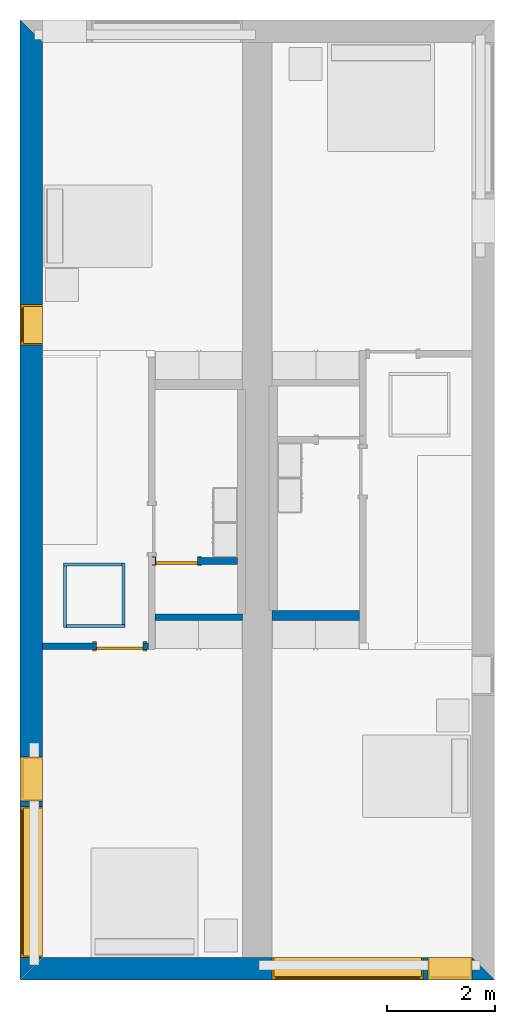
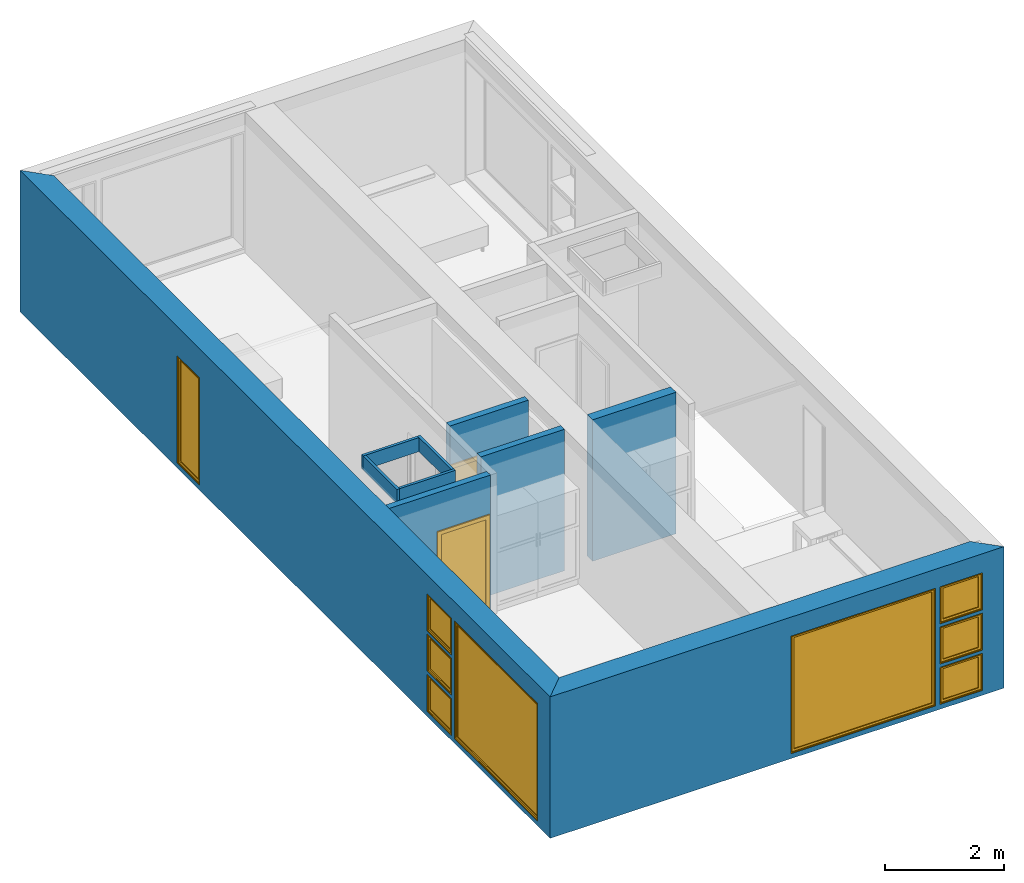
# One storey, part 2 of 16: 10 walls, 9 windows, 2 doors, 11 openings.
"""IFC4 building model written with IfcOpenShell, lengths in metres."""

from ifc_helpers import new_model, entity, si_unit, converted_unit, frame, frame_2d, origin, origin_2d_with_axis, place, context, project, spatial, polyline, rectangle, outline, extrude, source, transform, mapped, material, layer, layer_set, layer_usage, type_object, type_shapes, element, fill, save


model = new_model("IFC4")

# Units and contexts
model_context = context("Model", 3, precision=1e-09, world=origin())
plan_context = context("Plan", 3, precision=1e-09, world=origin())
ifc_project = project(units=[si_unit("LENGTHUNIT", "METRE"), si_unit("AREAUNIT", "SQUARE_METRE"), si_unit("VOLUMEUNIT", "CUBIC_METRE"), converted_unit("PLANEANGLEUNIT", "DEGREE", entity("IfcRatioMeasure", 0.01745329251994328), si_unit("PLANEANGLEUNIT", "RADIAN"), dimensions=[0, 0, 0, 0, 0, 0, 0]), si_unit("TIMEUNIT", "SECOND")], contexts=[model_context, plan_context])

# Site, building, storey
site_placement = place(None, origin())
site = spatial("IfcSite", under=ifc_project, at=site_placement, Name="Default", CompositionType="ELEMENT")
building_placement = place(site_placement, origin())
building = spatial("IfcBuilding", under=site, at=building_placement, CompositionType="ELEMENT")
storey_placement = place(building_placement, frame((0.0, 0.0, 3.100000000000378)))
storey = spatial("IfcBuildingStorey", under=building, at=storey_placement, Name="Level 2", CompositionType="ELEMENT", Elevation=3.100000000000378)

# Wall, openings, windows
ifc_material_1 = material(Name="Masonry - Brick")
ifc_layer_1 = layer(ifc_material_1, 0.092)
ifc_material_2 = material(Name="Misc. Air Layers - Air Space")
ifc_layer_2 = layer(ifc_material_2, 0.025)
ifc_material_3 = material(Name="Insulation / Thermal Barriers - Rigid insulation")
ifc_layer_3 = layer(ifc_material_3, 0.05)
ifc_material_4 = material(Name="Masonry - Concrete Block")
ifc_layer_4 = layer(ifc_material_4, 0.193)
ifc_material_5 = material(Name="Metal - Stud Layer")
ifc_layer_5 = layer(ifc_material_5, 0.041)
ifc_material_6 = material(Name="Plasterboard")
ifc_layer_6 = layer(ifc_material_6, 0.016)
ifc_layer_set_1 = layer_set([ifc_layer_1, ifc_layer_2, ifc_layer_3, ifc_layer_4, ifc_layer_5, ifc_layer_6], Name="Basic Wall:Exterior - Brick on Block")
ifc_layer_usage_1 = layer_usage(ifc_layer_set_1, "AXIS2", "NEGATIVE", 0.2085000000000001)
wall_1_placement = place(storey_placement, frame((8.799999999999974, -17.5915, 0.0), z_axis=(0.0, 0.0, 1.0), x_axis=(-1.0, 0.0, 0.0)))
wall_1 = element("IfcWall", 1, at=wall_1_placement, inside=storey, material=ifc_layer_usage_1, Name="Basic Wall:Exterior - Brick on Block", ObjectType="Basic Wall:Exterior - Brick on Block", PredefinedType="SOLIDWALL", context=model_context, shape_type="SweptSolid", body=[
    extrude(outline(polyline([(8.382999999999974, -0.2084999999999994), (8.799999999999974, 0.2085000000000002), (0.0, 0.2085000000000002), (0.4170000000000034, -0.2085000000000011), (4.125000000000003, -0.2085000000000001), (4.675000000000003, -0.2085000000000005), (8.382999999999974, -0.2084999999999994)])), origin(), (0.0, 0.0, 1.0), 2.900000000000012),
])
opening_1_placement = place(wall_1_placement, frame((0.4170000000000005, -0.2084999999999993, 1.750999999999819)))
opening_1 = element("IfcOpeningElement", 2, at=opening_1_placement, cuts=wall_1, Name="M_Fixed:819mm x 759mm:819mm x 759mm:1", ObjectType="Opening", context=model_context, shape_type="SweptSolid", body=[
    extrude(rectangle(XDim=0.7589999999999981, YDim=0.8189999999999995, at=frame_2d((0.379499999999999, 0.4095000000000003), x_axis=(1.0, 0.0))), frame((0.0, 0.0, 0.0), z_axis=(0.0, 1.0, 0.0), x_axis=(0.0, 0.0, 1.0)), (0.0, 0.0, 1.0), 0.4170000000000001),
])
opening_2_placement = place(wall_1_placement, frame((0.4170000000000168, -0.2084999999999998, 0.9254999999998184)))
opening_2 = element("IfcOpeningElement", 3, at=opening_2_placement, cuts=wall_1, Name="M_Casement:819mm x 759mm:819mm x 759mm:1", ObjectType="Opening", context=model_context, shape_type="SweptSolid", body=[
    extrude(rectangle(XDim=0.7590000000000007, YDim=0.8189999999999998, at=frame_2d((0.3795000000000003, 0.4094999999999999), x_axis=(-1.0, 0.0))), frame((0.0, 0.0, 0.0), z_axis=(0.0, 1.0, 0.0), x_axis=(0.0, 0.0, 1.0)), (0.0, 0.0, 1.0), 0.4170000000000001),
])
opening_3_placement = place(wall_1_placement, frame((1.325000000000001, -0.2084999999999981, 0.09999999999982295)))
opening_3 = element("IfcOpeningElement", 4, at=opening_3_placement, cuts=wall_1, Name="M_Fixed:2800mm x 2410mm:2800mm x 2410mm:1", ObjectType="Opening", context=model_context, shape_type="SweptSolid", body=[
    extrude(rectangle(XDim=2.409999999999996, YDim=2.8, at=frame_2d((1.204999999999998, 1.4), x_axis=(1.0, 0.0))), frame((0.0, 0.0, 0.0), z_axis=(0.0, 1.0, 0.0), x_axis=(0.0, 0.0, 1.0)), (0.0, 0.0, 1.0), 0.4170000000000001),
])
opening_4_placement = place(wall_1_placement, frame((0.4170000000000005, -0.2084999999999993, 0.0999999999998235)))
opening_4 = element("IfcOpeningElement", 5, at=opening_4_placement, cuts=wall_1, Name="M_Fixed:819mm x 759mm:819mm x 759mm:1", ObjectType="Opening", context=model_context, shape_type="SweptSolid", body=[
    extrude(rectangle(XDim=0.7589999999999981, YDim=0.8189999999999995, at=frame_2d((0.379499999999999, 0.4095000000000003), x_axis=(1.0, 0.0))), frame((0.0, 0.0, 0.0), z_axis=(0.0, 1.0, 0.0), x_axis=(0.0, 0.0, 1.0)), (0.0, 0.0, 1.0), 0.4170000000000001),
])
window_type_1 = type_object("IfcWindowType", Name="2800mm x 2410mm", ParameterTakesPrecedence=False, PartitioningType="NOTDEFINED", PredefinedType="WINDOW")
shared_shape_1 = source(origin(), model_context, "Body", "SweptSolid", [
    extrude(rectangle(XDim=0.01199999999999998, YDim=2.673999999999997, at=origin_2d_with_axis()), frame((1.400000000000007, 0.3759999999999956, 0.06299999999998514), z_axis=(0.0, 0.0, 1.0), x_axis=(0.0, -1.0, 0.0)), (0.0, 0.0, 1.0), 2.284000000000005),
    extrude(outline(polyline([(-1.381, -1.186000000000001), (1.381, -1.186000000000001), (1.381, 1.186000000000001), (-1.381, 1.186000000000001), (-1.381, -1.186000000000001)]), holes=[polyline([(-1.336999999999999, -1.142000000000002), (-1.336999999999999, 1.142000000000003), (1.336999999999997, 1.142000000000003), (1.336999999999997, -1.142000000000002), (-1.336999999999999, -1.142000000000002)])]), frame((1.400000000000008, 0.3539999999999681, 1.204999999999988), z_axis=(0.0, 1.0, 0.0), x_axis=(1.0, 0.0, 0.0)), (0.0, 0.0, 1.0), 0.04400000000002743),
    extrude(outline(polyline([(-1.4, -1.204999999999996), (1.4, -1.204999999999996), (1.4, 1.204999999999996), (-1.4, 1.204999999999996), (-1.4, -1.204999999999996)]), holes=[polyline([(-1.381000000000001, -1.185999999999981), (-1.381000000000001, 1.186000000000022), (1.380999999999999, 1.186000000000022), (1.380999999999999, -1.185999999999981), (-1.381000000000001, -1.185999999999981)])]), frame((1.400000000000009, 0.3539999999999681, 1.205000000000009), z_axis=(0.0, 1.0, 0.0), x_axis=(1.0, 0.0, 0.0)), (0.0, 0.0, 1.0), 0.06300000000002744),
    extrude(outline(polyline([(-1.4, -1.204999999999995), (1.4, -1.204999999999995), (1.4, 1.204999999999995), (-1.4, 1.204999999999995), (-1.4, -1.204999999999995)]), holes=[polyline([(-1.368, -1.172999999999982), (-1.368, 1.17300000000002), (1.368, 1.17300000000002), (1.367999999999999, -1.172999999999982), (-1.368, -1.172999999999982)])]), frame((1.40000000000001, 0.0, 1.205000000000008), z_axis=(0.0, 1.0, 0.0), x_axis=(1.0, 0.0, 0.0)), (0.0, 0.0, 1.0), 0.3539999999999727),
])
type_shapes(window_type_1, [shared_shape_1])
window_1_placement = place(opening_3_placement, origin())
window_1 = element("IfcWindow", 6, at=window_1_placement, inside=storey, type_object=window_type_1, Name="M_Fixed:2800mm x 2410mm:2800mm x 2410mm", ObjectType="2800mm x 2410mm", OverallHeight=2.409999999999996, OverallWidth=2.8, context=model_context, shape_type="MappedRepresentation", body=[
    mapped(shared_shape_1, transform((0.0, 0.0, 0.0), scale=1.0)),
])
fill(opening_3, window_1)
window_type_2 = type_object("IfcWindowType", Name="819mm x 759mm", ParameterTakesPrecedence=False, PartitioningType="NOTDEFINED", PredefinedType="WINDOW")
shared_shape_2 = source(origin(), model_context, "Body", "SweptSolid", [
    extrude(rectangle(XDim=0.01199999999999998, YDim=0.6929999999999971, at=origin_2d_with_axis()), frame((0.4095000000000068, 0.3759999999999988, 0.06299999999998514), z_axis=(0.0, 0.0, 1.0), x_axis=(0.0, -1.0, 0.0)), (0.0, 0.0, 1.0), 0.6330000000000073),
    extrude(outline(polyline([(-0.3904999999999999, -0.3605000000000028), (0.3904999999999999, -0.3605000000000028), (0.3904999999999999, 0.3605000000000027), (-0.3904999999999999, 0.3605000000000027), (-0.3904999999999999, -0.3605000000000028)]), holes=[polyline([(-0.3464999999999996, -0.3165000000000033), (-0.3464999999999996, 0.316500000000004), (0.3464999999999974, 0.316500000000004), (0.3464999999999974, -0.3165000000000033), (-0.3464999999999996, -0.3165000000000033)])]), frame((0.4095000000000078, 0.3539999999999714, 0.3794999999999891), z_axis=(0.0, 1.0, 0.0), x_axis=(1.0, 0.0, 0.0)), (0.0, 0.0, 1.0), 0.04400000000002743),
    extrude(outline(polyline([(-0.4094999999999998, -0.3794999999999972), (0.4094999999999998, -0.3794999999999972), (0.4094999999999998, 0.3794999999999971), (-0.4094999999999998, 0.3794999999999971), (-0.4094999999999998, -0.3794999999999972)]), holes=[polyline([(-0.3905000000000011, -0.3604999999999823), (-0.3905000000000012, 0.3605000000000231), (0.3904999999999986, 0.3605000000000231), (0.3904999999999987, -0.3604999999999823), (-0.3905000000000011, -0.3604999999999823)])]), frame((0.4095000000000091, 0.3539999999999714, 0.3795000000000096), z_axis=(0.0, 1.0, 0.0), x_axis=(1.0, 0.0, 0.0)), (0.0, 0.0, 1.0), 0.06300000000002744),
    extrude(outline(polyline([(-0.4095000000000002, -0.3794999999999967), (0.4095000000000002, -0.3794999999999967), (0.4095000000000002, 0.3794999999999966), (-0.4095000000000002, 0.3794999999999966), (-0.4095000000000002, -0.3794999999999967)]), holes=[polyline([(-0.3774999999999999, -0.3474999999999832), (-0.3774999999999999, 0.3475000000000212), (0.3775000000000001, 0.3475000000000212), (0.3775000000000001, -0.3474999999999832), (-0.3774999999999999, -0.3474999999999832)])]), frame((0.4095000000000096, 0.0, 0.379500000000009), z_axis=(0.0, 1.0, 0.0), x_axis=(1.0, 0.0, 0.0)), (0.0, 0.0, 1.0), 0.3539999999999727),
])
type_shapes(window_type_2, [shared_shape_2])
window_2_placement = place(opening_4_placement, origin())
window_2 = element("IfcWindow", 7, at=window_2_placement, inside=storey, type_object=window_type_2, Name="M_Fixed:819mm x 759mm:819mm x 759mm", ObjectType="819mm x 759mm", OverallHeight=0.758999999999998, OverallWidth=0.8190000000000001, context=model_context, shape_type="MappedRepresentation", body=[
    mapped(shared_shape_2, transform((0.0, 0.0, 0.0), scale=1.0)),
])
fill(opening_4, window_2)
window_3_placement = place(opening_1_placement, origin())
window_3 = element("IfcWindow", 8, at=window_3_placement, inside=storey, type_object=window_type_2, Name="M_Fixed:819mm x 759mm:819mm x 759mm", ObjectType="819mm x 759mm", OverallHeight=0.758999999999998, OverallWidth=0.8190000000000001, context=model_context, shape_type="MappedRepresentation", body=[
    mapped(shared_shape_2, transform((0.0, 0.0, 0.0), scale=1.0)),
])
fill(opening_1, window_3)
window_type_3 = type_object("IfcWindowType", Name="819mm x 759mm", ParameterTakesPrecedence=False, PartitioningType="NOTDEFINED", PredefinedType="WINDOW")
shared_shape_3 = source(origin(), model_context, "Body", "SweptSolid", [
    extrude(rectangle(XDim=0.01269999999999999, YDim=0.6919999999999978, at=origin_2d_with_axis()), frame((0.4095000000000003, 0.3757750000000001, 0.06350000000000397), z_axis=(0.0, 0.0, 1.0), x_axis=(0.0, 1.0, 0.0)), (0.0, 0.0, 1.0), 0.6320000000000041),
    extrude(outline(polyline([(-0.3904499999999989, -0.3604500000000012), (0.3904499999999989, -0.3604500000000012), (0.3904499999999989, 0.3604500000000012), (-0.3904499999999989, 0.3604500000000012), (-0.3904499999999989, -0.3604500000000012)]), holes=[polyline([(-0.3459999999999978, -0.3160000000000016), (-0.3459999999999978, 0.3160000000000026), (0.346, 0.3160000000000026), (0.346, -0.3160000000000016), (-0.3459999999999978, -0.3160000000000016)])]), frame((0.4094999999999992, 0.3535500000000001, 0.3795000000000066), z_axis=(0.0, 1.0, 0.0), x_axis=(1.0, 0.0, 0.0)), (0.0, 0.0, 1.0), 0.04445),
    extrude(outline(polyline([(-0.4094999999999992, -0.3795000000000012), (0.4094999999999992, -0.3795000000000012), (0.4094999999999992, 0.3795000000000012), (-0.4094999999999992, 0.3795000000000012), (-0.4094999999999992, -0.3795000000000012)]), holes=[polyline([(-0.3777500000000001, -0.3477499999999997), (-0.3777500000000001, 0.3477500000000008), (0.3777499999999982, 0.3477500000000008), (0.3777499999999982, -0.3477499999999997), (-0.3777500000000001, -0.3477499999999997)])]), frame((0.4095000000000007, 0.0, 0.3795000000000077), z_axis=(0.0, 1.0, 0.0), x_axis=(1.0, 0.0, 0.0)), (0.0, 0.0, 1.0), 0.3535500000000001),
    extrude(outline(polyline([(-0.3795000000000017, -0.4094999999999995), (0.3795000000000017, -0.4094999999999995), (0.3795000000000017, 0.4094999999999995), (-0.3795000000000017, 0.4094999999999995), (-0.3795000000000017, -0.4094999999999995)]), holes=[polyline([(-0.3604500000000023, -0.3904499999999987), (-0.3604500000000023, 0.3904499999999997), (0.3604500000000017, 0.3904499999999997), (0.3604500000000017, -0.3904499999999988), (-0.3604500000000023, -0.3904499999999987)])]), frame((0.4095000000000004, 0.3535500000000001, 0.3795000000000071), z_axis=(0.0, 1.0, 0.0), x_axis=(0.0, 0.0, -1.0)), (0.0, 0.0, 1.0), 0.06345),
])
type_shapes(window_type_3, [shared_shape_3])
window_4_placement = place(opening_2_placement, origin())
window_4 = element("IfcWindow", 9, at=window_4_placement, inside=storey, type_object=window_type_3, Name="M_Casement:819mm x 759mm:819mm x 759mm", ObjectType="819mm x 759mm", OverallHeight=0.7590000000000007, OverallWidth=0.8190000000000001, context=model_context, shape_type="MappedRepresentation", body=[
    mapped(shared_shape_3, transform((0.0, 0.0, 0.0), scale=1.0)),
])
fill(opening_2, window_4)

ifc_layer_usage_2 = layer_usage(ifc_layer_set_1, "AXIS2", "NEGATIVE", 0.2085000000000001)
wall_2_placement = place(storey_placement, frame((0.208499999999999, -17.79999999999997, 0.0), z_axis=(0.0, 0.0, 1.0), x_axis=(0.0, 1.0, 0.0)))
wall_2 = element("IfcWall", 10, at=wall_2_placement, inside=storey, material=ifc_layer_usage_2, Name="Basic Wall:Exterior - Brick on Block", ObjectType="Basic Wall:Exterior - Brick on Block", PredefinedType="SOLIDWALL", context=model_context, shape_type="SweptSolid", body=[
    extrude(outline(polyline([(17.38299999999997, -0.2085000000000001), (17.79999999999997, 0.2085000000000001), (0.0, 0.2085000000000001), (0.4170000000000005, -0.2085), (6.125999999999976, -0.2085), (6.249999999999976, -0.2085000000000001), (17.38299999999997, -0.2085000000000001)])), origin(), (0.0, 0.0, 1.0), 2.900000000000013),
])
opening_5_placement = place(wall_2_placement, frame((11.77399999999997, -0.2084999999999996, 0.09999999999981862)))
opening_5 = element("IfcOpeningElement", 11, at=opening_5_placement, cuts=wall_2, Name="M_Fixed:750mm x 2200mm:750mm x 2200mm:1", ObjectType="Opening", context=model_context, shape_type="SweptSolid", body=[
    extrude(rectangle(XDim=2.199999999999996, YDim=0.7499999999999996, at=frame_2d((1.099999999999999, 0.3749999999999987), x_axis=(1.0, 0.0))), frame((0.0, 0.0, 0.0), z_axis=(0.0, 1.0, 0.0), x_axis=(0.0, 0.0, 1.0)), (0.0, 0.0, 1.0), 0.4170000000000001),
])
opening_6_placement = place(wall_2_placement, frame((3.317000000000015, -0.2085000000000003, 0.9254999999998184)))
opening_6 = element("IfcOpeningElement", 12, at=opening_6_placement, cuts=wall_2, Name="M_Casement:819mm x 759mm:819mm x 759mm:1", ObjectType="Opening", context=model_context, shape_type="SweptSolid", body=[
    extrude(rectangle(XDim=0.7590000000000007, YDim=0.8189999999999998, at=frame_2d((0.3795000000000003, 0.4094999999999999), x_axis=(-1.0, 0.0))), frame((0.0, 0.0, 0.0), z_axis=(0.0, 1.0, 0.0), x_axis=(0.0, 0.0, 1.0)), (0.0, 0.0, 1.0), 0.4170000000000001),
])
opening_7_placement = place(wall_2_placement, frame((3.317, -0.208499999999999, 0.09999999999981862)))
opening_7 = element("IfcOpeningElement", 13, at=opening_7_placement, cuts=wall_2, Name="M_Fixed:819mm x 759mm:819mm x 759mm:1", ObjectType="Opening", context=model_context, shape_type="SweptSolid", body=[
    extrude(rectangle(XDim=0.7589999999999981, YDim=0.8189999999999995, at=frame_2d((0.3794999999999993, 0.4095000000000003), x_axis=(1.0, 0.0))), frame((0.0, 0.0, 0.0), z_axis=(0.0, 1.0, 0.0), x_axis=(0.0, 0.0, 1.0)), (0.0, 0.0, 1.0), 0.4170000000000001),
])
opening_8_placement = place(wall_2_placement, frame((3.317, -0.208499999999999, 1.750999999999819)))
opening_8 = element("IfcOpeningElement", 14, at=opening_8_placement, cuts=wall_2, Name="M_Fixed:819mm x 759mm:819mm x 759mm:1", ObjectType="Opening", context=model_context, shape_type="SweptSolid", body=[
    extrude(rectangle(XDim=0.7589999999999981, YDim=0.8189999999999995, at=frame_2d((0.379499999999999, 0.4095000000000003), x_axis=(1.0, 0.0))), frame((0.0, 0.0, 0.0), z_axis=(0.0, 1.0, 0.0), x_axis=(0.0, 0.0, 1.0)), (0.0, 0.0, 1.0), 0.4170000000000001),
])
opening_9_placement = place(wall_2_placement, frame((0.4169999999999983, -0.2084999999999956, 0.09999999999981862)))
opening_9 = element("IfcOpeningElement", 15, at=opening_9_placement, cuts=wall_2, Name="M_Fixed:2800mm x 2410mm:2800mm x 2410mm:1", ObjectType="Opening", context=model_context, shape_type="SweptSolid", body=[
    extrude(rectangle(XDim=2.409999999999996, YDim=2.8, at=frame_2d((1.204999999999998, 1.4), x_axis=(1.0, 0.0))), frame((0.0, 0.0, 0.0), z_axis=(0.0, 1.0, 0.0), x_axis=(0.0, 0.0, 1.0)), (0.0, 0.0, 1.0), 0.4170000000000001),
])
window_type_4 = type_object("IfcWindowType", Name="750mm x 2200mm", ParameterTakesPrecedence=False, PartitioningType="NOTDEFINED", PredefinedType="WINDOW")
shared_shape_4 = source(origin(), model_context, "Body", "SweptSolid", [
    extrude(rectangle(XDim=0.01199999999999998, YDim=0.623999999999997, at=origin_2d_with_axis()), frame((0.375000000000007, 0.3759999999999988, 0.06299999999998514), z_axis=(0.0, 0.0, 1.0), x_axis=(0.0, -1.0, 0.0)), (0.0, 0.0, 1.0), 2.074000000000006),
    extrude(outline(polyline([(-0.3559999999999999, -1.081000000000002), (0.3559999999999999, -1.081000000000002), (0.3559999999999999, 1.081000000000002), (-0.3559999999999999, 1.081000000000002), (-0.3559999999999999, -1.081000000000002)]), holes=[polyline([(-0.3119999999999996, -1.037000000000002), (-0.3119999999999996, 1.037000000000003), (0.3119999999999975, 1.037000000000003), (0.3119999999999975, -1.037000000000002), (-0.3119999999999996, -1.037000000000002)])]), frame((0.3750000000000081, 0.3539999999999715, 1.099999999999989), z_axis=(0.0, 1.0, 0.0), x_axis=(1.0, 0.0, 0.0)), (0.0, 0.0, 1.0), 0.04400000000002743),
    extrude(outline(polyline([(-0.3749999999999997, -1.099999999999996), (0.3749999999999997, -1.099999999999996), (0.3749999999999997, 1.099999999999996), (-0.3749999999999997, 1.099999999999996), (-0.3749999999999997, -1.099999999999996)]), holes=[polyline([(-0.3560000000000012, -1.080999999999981), (-0.3560000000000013, 1.081000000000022), (0.3559999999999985, 1.081000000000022), (0.3559999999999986, -1.080999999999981), (-0.3560000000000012, -1.080999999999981)])]), frame((0.3750000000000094, 0.3539999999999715, 1.100000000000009), z_axis=(0.0, 1.0, 0.0), x_axis=(1.0, 0.0, 0.0)), (0.0, 0.0, 1.0), 0.06300000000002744),
    extrude(outline(polyline([(-0.3750000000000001, -1.099999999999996), (0.3750000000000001, -1.099999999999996), (0.3750000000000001, 1.099999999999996), (-0.3750000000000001, 1.099999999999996), (-0.3750000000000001, -1.099999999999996)]), holes=[polyline([(-0.3429999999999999, -1.067999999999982), (-0.3429999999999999, 1.06800000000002), (0.3430000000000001, 1.06800000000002), (0.3430000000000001, -1.067999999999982), (-0.3429999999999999, -1.067999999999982)])]), frame((0.3750000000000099, 0.0, 1.100000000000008), z_axis=(0.0, 1.0, 0.0), x_axis=(1.0, 0.0, 0.0)), (0.0, 0.0, 1.0), 0.3539999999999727),
])
type_shapes(window_type_4, [shared_shape_4])
window_5_placement = place(opening_5_placement, origin())
window_5 = element("IfcWindow", 16, at=window_5_placement, inside=storey, type_object=window_type_4, Name="M_Fixed:750mm x 2200mm:750mm x 2200mm", ObjectType="750mm x 2200mm", OverallHeight=2.199999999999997, OverallWidth=0.7499999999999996, context=model_context, shape_type="MappedRepresentation", body=[
    mapped(shared_shape_4, transform((0.0, 0.0, 0.0), scale=1.0)),
])
fill(opening_5, window_5)
window_6_placement = place(opening_9_placement, origin())
window_6 = element("IfcWindow", 17, at=window_6_placement, inside=storey, type_object=window_type_1, Name="M_Fixed:2800mm x 2410mm:2800mm x 2410mm", ObjectType="2800mm x 2410mm", OverallHeight=2.409999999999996, OverallWidth=2.8, context=model_context, shape_type="MappedRepresentation", body=[
    mapped(shared_shape_1, transform((0.0, 0.0, 0.0), scale=1.0)),
])
fill(opening_9, window_6)
window_7_placement = place(opening_7_placement, origin())
window_7 = element("IfcWindow", 18, at=window_7_placement, inside=storey, type_object=window_type_2, Name="M_Fixed:819mm x 759mm:819mm x 759mm", ObjectType="819mm x 759mm", OverallHeight=0.7589999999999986, OverallWidth=0.8190000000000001, context=model_context, shape_type="MappedRepresentation", body=[
    mapped(shared_shape_2, transform((0.0, 0.0, 0.0), scale=1.0)),
])
fill(opening_7, window_7)
window_8_placement = place(opening_8_placement, origin())
window_8 = element("IfcWindow", 19, at=window_8_placement, inside=storey, type_object=window_type_2, Name="M_Fixed:819mm x 759mm:819mm x 759mm", ObjectType="819mm x 759mm", OverallHeight=0.758999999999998, OverallWidth=0.8190000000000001, context=model_context, shape_type="MappedRepresentation", body=[
    mapped(shared_shape_2, transform((0.0, 0.0, 0.0), scale=1.0)),
])
fill(opening_8, window_8)
window_9_placement = place(opening_6_placement, origin())
window_9 = element("IfcWindow", 20, at=window_9_placement, inside=storey, type_object=window_type_3, Name="M_Casement:819mm x 759mm:819mm x 759mm", ObjectType="819mm x 759mm", OverallHeight=0.7590000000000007, OverallWidth=0.8190000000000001, context=model_context, shape_type="MappedRepresentation", body=[
    mapped(shared_shape_3, transform((0.0, 0.0, 0.0), scale=1.0)),
])
fill(opening_6, window_9)

# Wall, opening, door
ifc_layer_7 = layer(ifc_material_6, 0.016)
ifc_layer_8 = layer(ifc_material_5, 0.092)
ifc_layer_9 = layer(ifc_material_6, 0.016)
ifc_layer_set_2 = layer_set([ifc_layer_7, ifc_layer_8, ifc_layer_9], Name="Basic Wall:Interior - Partition (92mm Stud)")
ifc_layer_usage_3 = layer_usage(ifc_layer_set_2, "AXIS2", "NEGATIVE", 0.062)
wall_3_placement = place(storey_placement, frame((2.381999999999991, -11.612, 0.0), z_axis=(0.0, 0.0, 1.0), x_axis=(-1.0, 0.0, 0.0)))
wall_3 = element("IfcWall", 21, at=wall_3_placement, inside=storey, material=ifc_layer_usage_3, Name="Basic Wall:Interior - Partition (92mm Stud)", ObjectType="Basic Wall:Interior - Partition (92mm Stud)", PredefinedType="SOLIDWALL", context=model_context, shape_type="SweptSolid", body=[
    extrude(rectangle(XDim=1.964999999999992, YDim=0.1240000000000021, at=frame_2d((0.9824999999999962, 0.0), x_axis=(-1.0, 0.0))), origin(), (0.0, 0.0, 1.0), 2.900000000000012),
])
opening_10_placement = place(wall_3_placement, frame((0.09999999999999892, -0.0620000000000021, 0.0)))
opening_10 = element("IfcOpeningElement", 22, at=opening_10_placement, cuts=wall_3, Name="M_Single-Flush:0864 x 2032mm:0864 x 2032mm:1", ObjectType="Opening", context=model_context, shape_type="SweptSolid", body=[
    extrude(rectangle(XDim=0.8639999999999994, YDim=2.032, at=frame_2d((1.016, 0.4319999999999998), x_axis=(0.0, -1.0))), frame((0.0, 0.0, 0.0), z_axis=(0.0, 1.0, 0.0), x_axis=(0.0, 0.0, 1.0)), (0.0, 0.0, 1.0), 0.124),
])
door_type_1 = type_object("IfcDoorType", Name="0864 x 2032mm", OperationType="SINGLE_SWING_LEFT", ParameterTakesPrecedence=False, PredefinedType="DOOR")
shared_shape_5 = source(origin(), model_context, "Body", "SweptSolid", [
    extrude(outline(polyline([(-0.5079999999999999, -1.072999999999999), (0.5079999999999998, -1.072999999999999), (0.5079999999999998, 1.035000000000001), (0.4319999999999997, 1.035000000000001), (0.4319999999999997, -0.9970000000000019), (-0.4319999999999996, -0.9970000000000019), (-0.4319999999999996, 1.035000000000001), (-0.5079999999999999, 1.035000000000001), (-0.5079999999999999, -1.072999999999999)])), frame((0.4320000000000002, 0.1489999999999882, 1.035000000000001), z_axis=(0.0, -1.0, 0.0), x_axis=(-1.0, 0.0, 0.0)), (0.0, 0.0, 1.0), 0.02499999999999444),
    extrude(outline(polyline([(-1.073, -0.5079999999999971), (1.035, -0.5079999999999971), (1.035, -0.4320000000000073), (-0.9969999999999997, -0.4320000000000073), (-0.9969999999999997, 0.4320000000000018), (1.035, 0.4320000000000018), (1.035, 0.5080000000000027), (-1.073, 0.5080000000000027), (-1.073, -0.5079999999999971)])), frame((0.4319999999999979, 0.0, 1.035), z_axis=(0.0, -1.0, 0.0), x_axis=(0.0, 0.0, -1.0)), (0.0, 0.0, 1.0), 0.02500000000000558),
    extrude(rectangle(XDim=0.8639999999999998, YDim=0.051, at=origin_2d_with_axis()), frame((0.4320000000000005, 0.09849999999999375, 0.0)), (0.0, 0.0, 1.0), 2.032),
])
type_shapes(door_type_1, [shared_shape_5])
door_1_placement = place(opening_10_placement, origin())
door_1 = element("IfcDoor", 23, at=door_1_placement, inside=storey, type_object=door_type_1, Name="M_Single-Flush:0864 x 2032mm:0864 x 2032mm", ObjectType="0864 x 2032mm", OverallHeight=2.032, OverallWidth=0.8639999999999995, context=model_context, shape_type="MappedRepresentation", body=[
    mapped(shared_shape_5, transform((0.0, 0.0, 0.0), scale=1.0)),
])
fill(opening_10, door_1)

# Walls
ifc_layer_10 = layer(ifc_material_5, 0.038)
ifc_layer_11 = layer(ifc_material_6, 0.016)
ifc_layer_set_3 = layer_set([ifc_layer_10, ifc_layer_11], Name="Basic Wall:Interior - Furring (38 mm Stud)")
ifc_layer_usage_4 = layer_usage(ifc_layer_set_3, "AXIS2", "NEGATIVE", 0.027)
wall_4_placement = place(storey_placement, frame((0.8074500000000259, -10.09745000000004, 2.612)))
element("IfcWall", 24, at=wall_4_placement, inside=storey, material=ifc_layer_usage_4, Name="Basic Wall:Interior - Furring (38 mm Stud)", ObjectType="Basic Wall:Interior - Furring (38 mm Stud)", PredefinedType="SOLIDWALL", context=model_context, shape_type="SweptSolid", body=[
    extrude(rectangle(XDim=1.0831, YDim=0.05400000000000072, at=frame_2d((0.5415499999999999, 0.0), x_axis=(-1.0, 0.0))), origin(), (0.0, 0.0, 1.0), 0.2880000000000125),
])
ifc_layer_usage_5 = layer_usage(ifc_layer_set_3, "AXIS2", "NEGATIVE", 0.027)
wall_5_placement = place(storey_placement, frame((1.917550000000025, -10.07045000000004, 2.612), z_axis=(0.0, 0.0, 1.0), x_axis=(0.0, -1.0, 0.0)))
element("IfcWall", 25, at=wall_5_placement, inside=storey, material=ifc_layer_usage_5, Name="Basic Wall:Interior - Furring (38 mm Stud)", ObjectType="Basic Wall:Interior - Furring (38 mm Stud)", PredefinedType="SOLIDWALL", context=model_context, shape_type="SweptSolid", body=[
    extrude(rectangle(XDim=1.135099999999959, YDim=0.05400000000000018, at=frame_2d((0.5675499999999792, 0.0), x_axis=(-1.0, 0.0))), origin(), (0.0, 0.0, 1.0), 0.2880000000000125),
])
ifc_layer_usage_6 = layer_usage(ifc_layer_set_2, "AXIS2", "NEGATIVE", 0.062)
wall_6_placement = place(storey_placement, frame((4.124999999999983, -11.072, 0.0), z_axis=(0.0, 0.0, 1.0), x_axis=(-1.0, 0.0, 0.0)))
element("IfcWall", 26, at=wall_6_placement, inside=storey, material=ifc_layer_usage_6, Name="Basic Wall:Interior - Partition (92mm Stud)", ObjectType="Basic Wall:Interior - Partition (92mm Stud)", PredefinedType="SOLIDWALL", context=model_context, shape_type="SweptSolid", body=[
    extrude(rectangle(XDim=1.61899999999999, YDim=0.1240000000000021, at=frame_2d((0.8094999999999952, 0.0), x_axis=(-1.0, 0.0))), origin(), (0.0, 0.0, 1.0), 2.900000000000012),
])
ifc_layer_12 = layer(ifc_material_6, 0.016)
ifc_layer_13 = layer(ifc_material_5, 0.152)
ifc_layer_14 = layer(ifc_material_6, 0.016)
ifc_layer_set_4 = layer_set([ifc_layer_12, ifc_layer_13, ifc_layer_14], Name="Basic Wall:Interior - Plumbing (152mm Stud)")
ifc_layer_usage_7 = layer_usage(ifc_layer_set_4, "AXIS2", "NEGATIVE", 0.092)
wall_7_placement = place(storey_placement, frame((6.294000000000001, -11.04200000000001, 0.0), z_axis=(0.0, 0.0, 1.0), x_axis=(-1.0, 0.0, 0.0)))
element("IfcWall", 27, at=wall_7_placement, inside=storey, material=ifc_layer_usage_7, Name="Basic Wall:Interior - Plumbing (152mm Stud)", ObjectType="Basic Wall:Interior - Plumbing (152mm Stud)", PredefinedType="SOLIDWALL", context=model_context, shape_type="SweptSolid", body=[
    extrude(rectangle(XDim=1.619000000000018, YDim=0.1840000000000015, at=frame_2d((0.8095000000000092, 0.0), x_axis=(-1.0, 0.0))), origin(), (0.0, 0.0, 1.0), 2.900000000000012),
])

# Wall, opening, door
ifc_layer_usage_8 = layer_usage(ifc_layer_set_2, "AXIS2", "NEGATIVE", 0.062)
wall_8_placement = place(storey_placement, frame((4.029999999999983, -10.03205117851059, 0.0), z_axis=(0.0, 0.0, 1.0), x_axis=(-1.0, 0.0, 0.0)))
wall_8 = element("IfcWall", 28, at=wall_8_placement, inside=storey, material=ifc_layer_usage_8, Name="Basic Wall:Interior - Partition (92mm Stud)", ObjectType="Basic Wall:Interior - Partition (92mm Stud)", PredefinedType="SOLIDWALL", context=model_context, shape_type="SweptSolid", body=[
    extrude(rectangle(XDim=1.52399999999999, YDim=0.1240000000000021, at=frame_2d((0.7619999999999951, 0.0), x_axis=(-1.0, 0.0))), origin(), (0.0, 0.0, 1.0), 2.900000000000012),
])
opening_11_placement = place(wall_8_placement, frame((0.7419999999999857, -0.0619999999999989, 0.0)))
opening_11 = element("IfcOpeningElement", 29, at=opening_11_placement, cuts=wall_8, Name="M_Single-Flush:0762 x 2032mm:0762 x 2032mm:1", ObjectType="Opening", context=model_context, shape_type="SweptSolid", body=[
    extrude(rectangle(XDim=0.7619999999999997, YDim=2.032, at=frame_2d((1.016, 0.3810000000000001), x_axis=(0.0, 1.0))), frame((0.0, 0.0, 0.0), z_axis=(0.0, 1.0, 0.0), x_axis=(0.0, 0.0, 1.0)), (0.0, 0.0, 1.0), 0.124),
])
door_type_2 = type_object("IfcDoorType", Name="0762 x 2032mm", OperationType="SINGLE_SWING_RIGHT", ParameterTakesPrecedence=False, PredefinedType="DOOR")
shared_shape_6 = source(origin(), model_context, "Body", "SweptSolid", [
    extrude(outline(polyline([(-0.457, -1.072999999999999), (0.4569999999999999, -1.072999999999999), (0.4569999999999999, 1.035000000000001), (0.3809999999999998, 1.035000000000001), (0.3809999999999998, -0.9970000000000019), (-0.3809999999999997, -0.9970000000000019), (-0.3809999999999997, 1.035000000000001), (-0.457, 1.035000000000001), (-0.457, -1.072999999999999)])), frame((0.3810000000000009, 0.1239999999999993, 1.035000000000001), z_axis=(0.0, 1.0, 0.0), x_axis=(1.0, 0.0, 0.0)), (0.0, 0.0, 1.0), 0.02499999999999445),
    extrude(outline(polyline([(-1.073, -0.4569999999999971), (1.035, -0.4569999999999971), (1.035, -0.3810000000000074), (-0.9969999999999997, -0.3810000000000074), (-0.9969999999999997, 0.3810000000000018), (1.035, 0.3810000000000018), (1.035, 0.4570000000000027), (-1.073, 0.4570000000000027), (-1.073, -0.4569999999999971)])), frame((0.3810000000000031, -0.02500000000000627, 1.035), z_axis=(0.0, 1.0, 0.0), x_axis=(0.0, 0.0, -1.0)), (0.0, 0.0, 1.0), 0.02500000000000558),
    extrude(rectangle(XDim=0.051, YDim=0.7619999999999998, at=origin_2d_with_axis()), frame((0.3810000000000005, 0.09849999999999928, 0.0), z_axis=(0.0, 0.0, 1.0), x_axis=(0.0, 1.0, 0.0)), (0.0, 0.0, 1.0), 2.032),
])
type_shapes(door_type_2, [shared_shape_6])
door_2_placement = place(opening_11_placement, origin())
door_2 = element("IfcDoor", 30, at=door_2_placement, inside=storey, type_object=door_type_2, Name="M_Single-Flush:0762 x 2032mm:0762 x 2032mm", ObjectType="0762 x 2032mm", OverallHeight=2.032, OverallWidth=0.762, context=model_context, shape_type="MappedRepresentation", body=[
    mapped(shared_shape_6, transform((0.0, 0.0, 0.0), scale=1.0)),
])
fill(opening_11, door_2)

# Walls
ifc_layer_usage_9 = layer_usage(ifc_layer_set_3, "AXIS2", "NEGATIVE", 0.027)
wall_9_placement = place(storey_placement, frame((0.8344500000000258, -11.25955, 2.612), z_axis=(0.0, 0.0, 1.0), x_axis=(0.0, 1.0, 0.0)))
element("IfcWall", 31, at=wall_9_placement, inside=storey, material=ifc_layer_usage_9, Name="Basic Wall:Interior - Furring (38 mm Stud)", ObjectType="Basic Wall:Interior - Furring (38 mm Stud)", PredefinedType="SOLIDWALL", context=model_context, shape_type="SweptSolid", body=[
    extrude(rectangle(XDim=1.135099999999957, YDim=0.05399999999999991, at=frame_2d((0.5675499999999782, 0.0), x_axis=(-1.0, 0.0))), origin(), (0.0, 0.0, 1.0), 0.2880000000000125),
])
ifc_layer_usage_10 = layer_usage(ifc_layer_set_3, "AXIS2", "NEGATIVE", 0.027)
wall_10_placement = place(storey_placement, frame((1.944550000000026, -11.23255, 2.612), z_axis=(0.0, 0.0, 1.0), x_axis=(-1.0, 0.0, 0.0)))
element("IfcWall", 32, at=wall_10_placement, inside=storey, material=ifc_layer_usage_10, Name="Basic Wall:Interior - Furring (38 mm Stud)", ObjectType="Basic Wall:Interior - Furring (38 mm Stud)", PredefinedType="SOLIDWALL", context=model_context, shape_type="SweptSolid", body=[
    extrude(rectangle(XDim=1.0831, YDim=0.05400000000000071, at=frame_2d((0.5415499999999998, 0.0), x_axis=(-1.0, 0.0))), origin(), (0.0, 0.0, 1.0), 0.2880000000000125),
])

save(model, "model.ifc")
